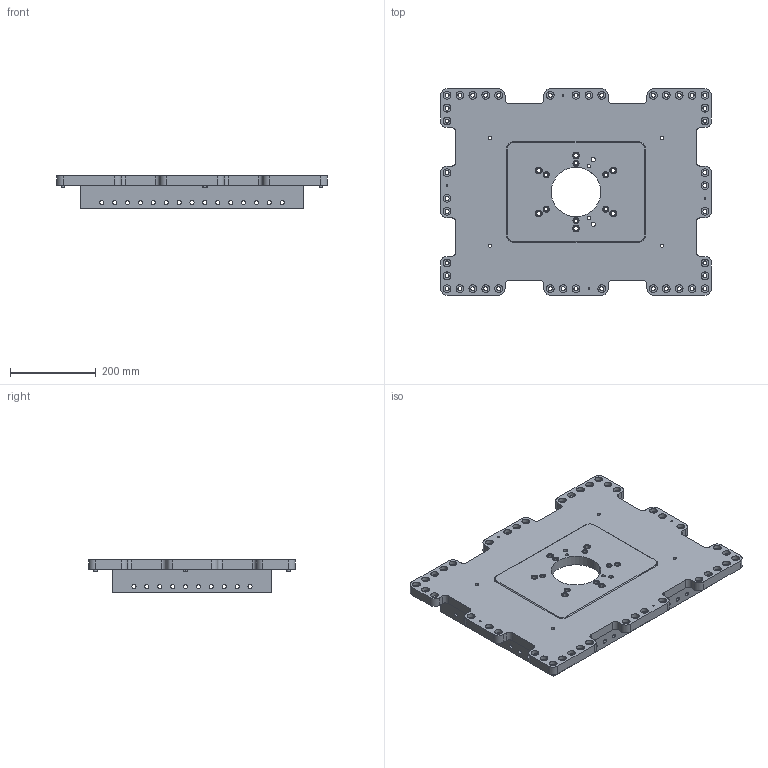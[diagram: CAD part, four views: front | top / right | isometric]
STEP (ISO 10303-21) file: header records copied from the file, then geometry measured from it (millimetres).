
FILE_DESCRIPTION(('STEP AP214'),'1');
FILE_NAME('EGT017_1706162_H-RAHMEN_450X600_SW80.CATPart.stp','2015-09-14T13:04:35',('3D-Tool'),(' '),'Spatial InterOp 3D',' ',' ');
FILE_SCHEMA(('automotive_design'));
Length unit declared in the file: millimetre
Products named in the file (21): EGT017_1706162_H-RAHMEN_450X600_SW80|EGT017_H-RAHMEN_450X600_SW80|Bohrbearbeitung; EGT017_1706162_H-RAHMEN_450X600_SW80|EGT212_Zentrierstift_1|Chamfer.5; EGT017_1706162_H-RAHMEN_450X600_SW80|EGT212_Zentrierstift_2|Chamfer.7; EGT017_1706162_H-RAHMEN_450X600_SW80|EGT212_Zentrierstift_3|Chamfer.8; EGT017_1706162_H-RAHMEN_450X600_SW80|EGT212_Zentrierstift_4|Chamfer.9; 1; 2; 3; 4; 5; 6; 7; 8; 9; 10; 11; 12; 13; 14; 15; 16
Bounding box: 630 x 480 x 79 mm (x, y, z)
Volume: 7620804.5 mm3; surface area: 877389.9 mm2
Topology: 17 solids, 17 shells, 1031 faces, 2768 edges, 1828 vertices
Faces by surface type: cylinder 792, plane 155, cone 80, torus 4
Entity records: 42448 total; most frequent: DIRECTION 6552, CARTESIAN_POINT 5712, ORIENTED_EDGE 5536, EDGE_CURVE 2768, AXIS2_PLACEMENT_3D 2748, VERTEX_POINT 1824, CIRCLE 1696, EDGE_LOOP 1350
